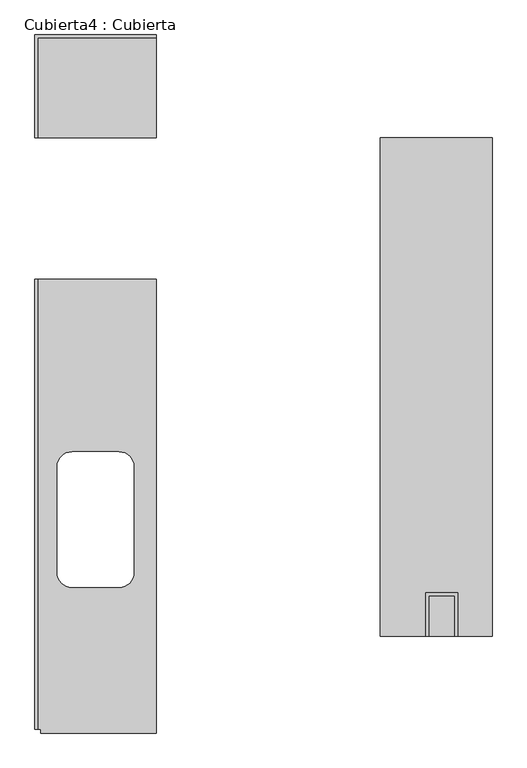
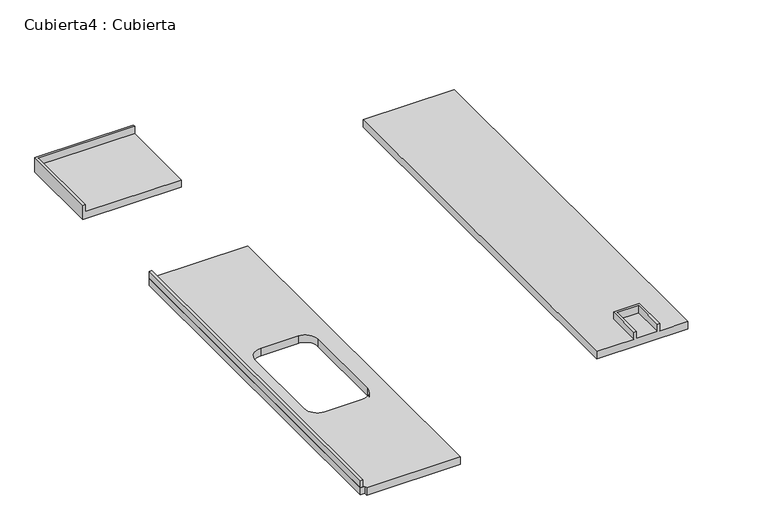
"""IFC4 building model written with IfcOpenShell, lengths in millimetres: furniture geometry, Cubierta4 : Cubierta."""

import ifcopenshell
import ifcopenshell.guid

model = None  # the IFC model being written
_history = None  # IfcOwnerHistory: only IFC2X3 demands one
_inside = {}  # id of a spatial element -> (the spatial element, [elements in it])
_under = {}  # id of a project, library or spatial element -> (it, [spatial elements below it])
_declared = {}  # id of a project -> (the project, [libraries it declares])
_typed = {}  # id of a type object -> (the type object, [elements of that type])
_made_of = {}  # id of a material, layer set ... -> (it, [elements and type objects made of it])


def new_model(schema):
    """Start an empty IFC model of exactly this schema.

    Asked for "IFC4X3", IfcOpenShell would pick the latest addendum, in which some entities
    have other attributes; the version numbers below select the first issue.
    IFC2X3 requires an IfcOwnerHistory on every rooted entity: one is made here for all.
    """
    global model, _history
    if schema == "IFC4X3":
        model = ifcopenshell.file(schema_version=(4, 3, 0, 0))
    else:
        model = ifcopenshell.file(schema=schema)
    _inside.clear()
    _under.clear()
    _declared.clear()
    _typed.clear()
    _made_of.clear()
    _history = None
    if model.schema == "IFC2X3":
        org = make("IfcOrganization", Name="unknown")
        user = make(
            "IfcPersonAndOrganization",
            ThePerson=make("IfcPerson", FamilyName="unknown"),
            TheOrganization=org,
        )
        app = make(
            "IfcApplication",
            ApplicationDeveloper=org,
            Version="unknown",
            ApplicationFullName="unknown",
            ApplicationIdentifier="unknown",
        )
        _history = make(
            "IfcOwnerHistory",
            OwningUser=user,
            OwningApplication=app,
            ChangeAction="ADDED",
            CreationDate=0,
        )
    return model


def make(cls, **values):
    """One entity of the class cls with the attributes given. An attribute that is None is left unset."""
    return model.create_entity(
        cls, **{name: value for name, value in values.items() if value is not None}
    )


def rooted(cls, **values):
    """An entity with a GlobalId (a new one), such as an element, a storey or a relation."""
    return make(cls, GlobalId=ifcopenshell.guid.new(), OwnerHistory=_history, **values)


def si_unit(unit_type, name, prefix=None):
    """IfcSIUnit, for example si_unit("LENGTHUNIT", "METRE", prefix="MILLI")."""
    return make("IfcSIUnit", UnitType=unit_type, Prefix=prefix, Name=name)


def assignment(units):
    """IfcUnitAssignment: the units of a project."""
    return None if units is None else make("IfcUnitAssignment", Units=units)


def point(xyz):
    """IfcCartesianPoint."""
    return None if xyz is None else make("IfcCartesianPoint", Coordinates=xyz)


def direction(xyz):
    """IfcDirection."""
    return None if xyz is None else make("IfcDirection", DirectionRatios=xyz)


def frame(location, z_axis=None, x_axis=None):
    """IfcAxis2Placement3D, a coordinate frame: its origin and axes. An axis left out is left unset."""
    return make(
        "IfcAxis2Placement3D",
        Location=point(location),
        Axis=direction(z_axis),
        RefDirection=direction(x_axis),
    )


def origin():
    """The frame at (0, 0, 0) with its axes left unset."""
    return frame((0.0, 0.0, 0.0))


def place(relative_to, where):
    """IfcLocalPlacement: puts the frame where relative to a parent placement (None: the world)."""
    return make(
        "IfcLocalPlacement", PlacementRelTo=relative_to, RelativePlacement=where
    )


def context(
    kind, dimensions, precision=None, world=None, true_north=None, identifier=None
):
    """IfcGeometricRepresentationContext, for example the 3D "Model" context."""
    return make(
        "IfcGeometricRepresentationContext",
        ContextIdentifier=identifier,
        ContextType=kind,
        CoordinateSpaceDimension=dimensions,
        Precision=precision,
        WorldCoordinateSystem=world,
        TrueNorth=true_north,
    )


def project(units=None, contexts=None):
    """IfcProject with its units and contexts."""
    return rooted(
        "IfcProject",
        Name="project",
        RepresentationContexts=contexts,
        UnitsInContext=assignment(units),
    )


def spatial(cls, under=None, at=None, **own):
    """A site, building, storey or space (cls), placed at a placement, below another one or the project."""
    s = rooted(cls, ObjectPlacement=at, **own)
    if under is not None:
        _under.setdefault(under.id(), (under, []))[1].append(s)
    return s


def polyline(points):
    """IfcPolyline through the points."""
    return make("IfcPolyline", Points=[point(p) for p in points])


def circle_curve(where, radius):
    """IfcCircle in the frame where."""
    return make("IfcCircle", Position=where, Radius=radius)


def outline(outer, holes=None, kind="AREA"):
    """IfcArbitraryClosedProfileDef: a profile drawn as a closed curve; with holes, ...WithVoids."""
    if holes is None:
        return make("IfcArbitraryClosedProfileDef", ProfileType=kind, OuterCurve=outer)
    return make(
        "IfcArbitraryProfileDefWithVoids",
        ProfileType=kind,
        OuterCurve=outer,
        InnerCurves=holes,
    )


def extrude(swept, where, along, depth):
    """IfcExtrudedAreaSolid: the profile swept, set in the frame where, extruded along a direction by depth."""
    return make(
        "IfcExtrudedAreaSolid",
        SweptArea=swept,
        Position=where,
        ExtrudedDirection=direction(along),
        Depth=depth,
    )


def faces_of(points, faces, orient=None, outer=None):
    """IfcFace entities. A face is a list of loops; a loop is a list of indices into points, from 0.

    orient and outer hold one flag for each loop. By default every Orientation is true, the
    first loop of a face is its IfcFaceOuterBound and the others are IfcFaceBound.
    """
    made = []
    for i, loops in enumerate(faces):
        bounds = []
        for j, loop in enumerate(loops):
            is_outer = j == 0 if outer is None else outer[i][j]
            bounds.append(
                make(
                    "IfcFaceOuterBound" if is_outer else "IfcFaceBound",
                    Bound=make("IfcPolyLoop", Polygon=[points[k] for k in loop]),
                    Orientation=True if orient is None else orient[i][j],
                )
            )
        made.append(make("IfcFace", Bounds=bounds))
    return made


def faceted_brep(points, faces, orient=None, outer=None, voids=None):
    """IfcFacetedBrep: a solid bounded by flat faces; with voids (closed shells), ...WithVoids."""
    shared = [point(p) for p in points]
    hull = make("IfcClosedShell", CfsFaces=faces_of(shared, faces, orient, outer))
    if voids is None:
        return make("IfcFacetedBrep", Outer=hull)
    return make(
        "IfcFacetedBrepWithVoids",
        Outer=hull,
        Voids=[
            make(cls, CfsFaces=faces_of(shared, fs, o, b)) for cls, fs, o, b in voids
        ],
    )


def shape(context_of_items, identifier, shape_type, items):
    """IfcShapeRepresentation: the items that make up one representation, for example the "Body"."""
    return make(
        "IfcShapeRepresentation",
        ContextOfItems=context_of_items,
        RepresentationIdentifier=identifier,
        RepresentationType=shape_type,
        Items=items,
    )


def source(mapping_origin, context_of_items, identifier, shape_type, items):
    """IfcRepresentationMap: a shape defined once, which mapped items show again and again."""
    return make(
        "IfcRepresentationMap",
        MappingOrigin=mapping_origin,
        MappedRepresentation=shape(context_of_items, identifier, shape_type, items),
    )


def transform(
    local_origin,
    x_axis=None,
    y_axis=None,
    z_axis=None,
    scale=None,
    scale2=None,
    scale3=None,
    uniform=True,
):
    """IfcCartesianTransformationOperator3D, or its non-uniform kind. x_axis, y_axis, z_axis: its Axis1, 2, 3."""
    if uniform:
        return make(
            "IfcCartesianTransformationOperator3D",
            Axis1=direction(x_axis),
            Axis2=direction(y_axis),
            LocalOrigin=point(local_origin),
            Scale=scale,
            Axis3=direction(z_axis),
        )
    return make(
        "IfcCartesianTransformationOperator3DnonUniform",
        Axis1=direction(x_axis),
        Axis2=direction(y_axis),
        LocalOrigin=point(local_origin),
        Scale=scale,
        Axis3=direction(z_axis),
        Scale2=scale2,
        Scale3=scale3,
    )


def mapped(mapping_source, mapping_target):
    """IfcMappedItem: shows the shape of a source again, moved by a transform."""
    return make(
        "IfcMappedItem", MappingSource=mapping_source, MappingTarget=mapping_target
    )


def made_of(thing, what):
    """Note that an element or type object is made of a material, layer set ...; save() writes the relation."""
    if what is not None:
        _made_of.setdefault(what.id(), (what, []))[1].append(thing)
    return thing


def element(
    cls,
    number,
    at=None,
    inside=None,
    cuts=None,
    type_object=None,
    material=None,
    context=None,
    identifier="Body",
    shape_type=None,
    held_by="IfcProductDefinitionShape",
    body=None,
    shapes=None,
    **own,
):
    """One element of the class cls, such as IfcWall. Its Tag is "e" and its number.

    at: its placement. inside: the storey or other place that contains it. cuts: it is an
    opening in that element (IfcRelVoidsElement). A single representation is given by context,
    identifier, shape_type and body (its items); several are given by shapes. held_by: the class
    of the entity that holds the representations. save() writes the other relations.
    """
    e = rooted(cls, Tag="e%d" % number, ObjectPlacement=at, **own)
    if body is not None:
        shapes = [shape(context, identifier, shape_type, body)]
    if shapes is not None:
        e.Representation = make(held_by, Representations=shapes)
    if inside is not None:
        _inside.setdefault(inside.id(), (inside, []))[1].append(e)
    if cuts is not None:
        rooted(
            "IfcRelVoidsElement", RelatingBuildingElement=cuts, RelatedOpeningElement=e
        )
    if type_object is not None:
        _typed.setdefault(type_object.id(), (type_object, []))[1].append(e)
    return made_of(e, material)


def aggregate(whole, parts):
    """IfcRelAggregates: a whole, such as a stair, and the parts it consists of."""
    return rooted("IfcRelAggregates", RelatingObject=whole, RelatedObjects=parts)


def save(model, path):
    """Write the relations noted so far, then the file.

    IfcRelAggregates (storeys below a building ...), IfcRelContainedInSpatialStructure (elements
    in a storey), IfcRelDefinesByType, IfcRelAssociatesMaterial and IfcRelDeclares: one each for
    every whole, place, type object, material and project.
    """
    for whole, parts in _under.values():
        aggregate(whole, parts)
    for where, things in _inside.values():
        rooted(
            "IfcRelContainedInSpatialStructure",
            RelatedElements=things,
            RelatingStructure=where,
        )
    for kind, things in _typed.values():
        rooted("IfcRelDefinesByType", RelatedObjects=things, RelatingType=kind)
    for what, things in _made_of.values():
        rooted("IfcRelAssociatesMaterial", RelatedObjects=things, RelatingMaterial=what)
    for by, libraries in _declared.values():
        rooted("IfcRelDeclares", RelatingContext=by, RelatedDefinitions=libraries)
    model.write(path)


def plane_surface(at):
    """IfcPlane: the flat surface through the origin of the frame at, square to its z axis."""
    return make("IfcPlane", Position=at)


def revolved_surface(curve, axis_point, axis_direction):
    """IfcSurfaceOfRevolution: the curve turned about the line through axis_point along axis_direction."""
    return make(
        "IfcSurfaceOfRevolution",
        SweptCurve=make("IfcArbitraryOpenProfileDef", ProfileType="CURVE", Curve=curve),
        AxisPosition=make("IfcAxis1Placement", Location=point(axis_point), Axis=direction(axis_direction)),
    )


def advanced_brep(points, edges, surfaces, faces):
    """IfcAdvancedBrep: a solid bounded by faces that lie on surfaces and meet in shared edges.

    An edge is (start, end): straight between two places in points (the first is 0);
    or (start, end, curve); or (start, end, curve, False) where it runs against its curve.
    A face is (place in surfaces, loops), or (place, loops, False) where it looks against
    its surface's normal. A loop lists edges by number (the first is 1), with a minus sign
    where the edge is run from its end to its start. The first loop is the outer one.
    """
    corners = [point(p) for p in points]
    vertices = [make("IfcVertexPoint", VertexGeometry=c) for c in corners]
    made = []
    for start, end, *more in edges:
        made.append(
            make(
                "IfcEdgeCurve",
                EdgeStart=vertices[start],
                EdgeEnd=vertices[end],
                EdgeGeometry=more[0] if more else make("IfcPolyline", Points=[corners[start], corners[end]]),
                SameSense=more[1] if len(more) > 1 else True,
            )
        )
    hull = []
    for where, loops, *sense in faces:
        bounds = []
        for j, loop in enumerate(loops):
            ring = [make("IfcOrientedEdge", EdgeElement=made[abs(k) - 1], Orientation=k > 0) for k in loop]
            bounds.append(
                make(
                    "IfcFaceOuterBound" if j == 0 else "IfcFaceBound",
                    Bound=make("IfcEdgeLoop", EdgeList=ring),
                    Orientation=True,
                )
            )
        hull.append(make("IfcAdvancedFace", Bounds=bounds, FaceSurface=surfaces[where], SameSense=sense[0] if sense else True))
    return make("IfcAdvancedBrep", Outer=make("IfcClosedShell", CfsFaces=hull))


def cubierta4_cubierta_1cff2780(model_context):
    return source(origin(), model_context, "Body", "SolidModel", [
        extrude(outline(polyline([(34143.8589874, 27964.010184), (34158.8589874, 27964.010184), (34158.8589874, 25552.4819737), (34143.8589874, 25552.4819737), (34143.8589874, 27964.010184)])), frame((0.0, 0.0, 3900.0), z_axis=(0.0, 0.0, 1.0), x_axis=(1.0, 0.0, 0.0)), (0.0, 0.0, 1.0), 50.0),
        faceted_brep([(35993.8589874, 28724.010184, 3900.0), (35993.8589874, 26052.4819336, 3900.0), (36239.5300226, 26052.4819336, 3900.0), (36239.5300226, 26284.0176189, 3900.0), (36409.5300226, 26284.0176189, 3900.0), (36409.5300226, 26052.4819336, 3900.0), (36593.8589508, 26052.4819336, 3900.0), (36593.8589508, 28724.010184, 3900.0), (36254.5300226, 26052.4819336, 3900.0), (36394.5300226, 26052.4819336, 3900.0), (36394.5300226, 26269.0176189, 3900.0), (36254.5300226, 26269.0176189, 3900.0), (35993.8589874, 28724.010184, 3850.0), (36593.8589508, 28724.010184, 3850.0), (36593.8589508, 26052.4819336, 3850.0), (35993.8589874, 26052.4819336, 3850.0), (36254.5300226, 26052.4819336, 3950.0), (36239.5300226, 26052.4819336, 3950.0), (36409.5300226, 26052.4819336, 3950.0), (36394.5300226, 26052.4819336, 3950.0), (36254.5300226, 26269.0176189, 3950.0), (36394.5300226, 26269.0176189, 3950.0), (36409.5300226, 26284.0176189, 3950.0), (36239.5300226, 26284.0176189, 3950.0)], [[[0, 1, 2, 3, 4, 5, 6, 7]], [[8, 9, 10, 11]], [[12, 13, 14, 15]], [[1, 0, 12, 15]], [[7, 6, 14, 13]], [[0, 7, 13, 12]], [[16, 17, 2, 1, 15, 14, 6, 5, 18, 19, 9, 8]], [[17, 16, 20, 21, 19, 18, 22, 23]], [[2, 17, 23, 3]], [[16, 8, 11, 20]], [[23, 22, 4, 3]], [[21, 20, 11, 10]], [[18, 5, 4, 22]], [[9, 19, 21, 10]]]),
        advanced_brep(
        [(34793.8589874, 25532.4819737, 3900.0), (34793.8589874, 27964.010184, 3900.0), (34143.8589874, 27964.010184, 3900.0), (34143.8589874, 25552.4819737, 3900.0), (34173.8589874, 25552.4819737, 3900.0), (34173.8589874, 25532.4819737, 3900.0), (34262.8589874, 26959.010184, 3900.0), (34343.8589874, 27040.010184, 3900.0), (34593.8589874, 27040.010184, 3900.0), (34674.8589874, 26959.010184, 3900.0), (34674.8589874, 26394.010184, 3900.0), (34593.8589874, 26313.010184, 3900.0), (34343.8589874, 26313.010184, 3900.0), (34262.8589874, 26394.010184, 3900.0), (34793.8589874, 25532.4819737, 3850.0), (34173.8589874, 25532.4819737, 3850.0), (34173.8589874, 25552.4819737, 3850.0), (34143.8589874, 25552.4819737, 3850.0), (34143.8589874, 27964.010184, 3850.0), (34793.8589874, 27964.010184, 3850.0), (34262.8589874, 26959.010184, 3850.0), (34262.8589874, 26394.010184, 3850.0), (34343.8589874, 26313.010184, 3850.0), (34593.8589874, 26313.010184, 3850.0), (34674.8589874, 26394.010184, 3850.0), (34674.8589874, 26959.010184, 3850.0), (34593.8589874, 27040.010184, 3850.0), (34343.8589874, 27040.010184, 3850.0)],
        [
            (0, 1),
            (1, 2),
            (2, 3),
            (3, 4),
            (4, 5),
            (5, 0),
            (6, 7, circle_curve(frame((34343.8589874, 26959.010184, 3900.0), z_axis=(0.0, 0.0, -1.0), x_axis=(0.0, 1.0, 0.0)), 81.0)),
            (7, 8),
            (8, 9, circle_curve(frame((34593.8589874, 26959.010184, 3900.0), z_axis=(0.0, 0.0, -1.0), x_axis=(0.0, 1.0, 0.0)), 81.0)),
            (9, 10),
            (10, 11, circle_curve(frame((34593.8589874, 26394.010184, 3900.0), z_axis=(0.0, 0.0, -1.0), x_axis=(0.0, 1.0, 0.0)), 81.0)),
            (11, 12),
            (12, 13, circle_curve(frame((34343.8589874, 26394.010184, 3900.0), z_axis=(0.0, 0.0, -1.0), x_axis=(0.0, 1.0, 0.0)), 81.0)),
            (13, 6),
            (14, 15),
            (15, 16),
            (16, 17),
            (17, 18),
            (18, 19),
            (19, 14),
            (20, 21),
            (21, 22, circle_curve(frame((34343.8589874, 26394.010184, 3850.0), z_axis=(0.0, 0.0, 1.0), x_axis=(0.0, 1.0, 0.0)), 81.0)),
            (22, 23),
            (23, 24, circle_curve(frame((34593.8589874, 26394.010184, 3850.0), z_axis=(0.0, 0.0, 1.0), x_axis=(0.0, 1.0, 0.0)), 81.0)),
            (24, 25),
            (25, 26, circle_curve(frame((34593.8589874, 26959.010184, 3850.0), z_axis=(0.0, 0.0, 1.0), x_axis=(0.0, 1.0, 0.0)), 81.0)),
            (26, 27),
            (27, 20, circle_curve(frame((34343.8589874, 26959.010184, 3850.0), z_axis=(0.0, 0.0, 1.0), x_axis=(0.0, 1.0, 0.0)), 81.0)),
            (2, 18),
            (17, 3),
            (16, 4),
            (15, 5),
            (14, 0),
            (19, 1),
            (6, 20),
            (27, 7),
            (26, 8),
            (25, 9),
            (24, 10),
            (23, 11),
            (22, 12),
            (21, 13),
        ],
        [
            plane_surface(frame((35993.8589874, 27819.7057874, 3900.0), z_axis=(0.0, 0.0, 1.0), x_axis=(0.0, -1.0, 0.0))),
            plane_surface(frame((35993.8589874, 27819.7057874, 3850.0), z_axis=(0.0, 0.0, -1.0), x_axis=(0.0, 1.0, 0.0))),
            plane_surface(frame((34143.8589874, 27964.010184, 3900.0), z_axis=(-1.0, 0.0, 0.0), x_axis=(0.0, 0.0, -1.0))),
            plane_surface(frame((34143.8589874, 25552.4819737, 3900.0), z_axis=(0.0, -1.0, 0.0), x_axis=(0.0, 0.0, -1.0))),
            plane_surface(frame((34173.8589874, 25552.4819737, 3900.0), z_axis=(-1.0, 0.0, 0.0), x_axis=(0.0, 0.0, -1.0))),
            plane_surface(frame((34173.8589874, 25532.4819737, 3900.0), z_axis=(0.0, -1.0, 0.0), x_axis=(0.0, 0.0, -1.0))),
            plane_surface(frame((34793.8589874, 25532.4819737, 3900.0), z_axis=(1.0, 0.0, 0.0), x_axis=(0.0, 0.0, -1.0))),
            plane_surface(frame((34793.8589874, 27964.010184, 3900.0), z_axis=(0.0, 1.0, 0.0), x_axis=(0.0, 0.0, -1.0))),
            revolved_surface(polyline([(34343.8589874, 27040.010184, 3850.0), (34343.8589874, 27040.010184, 3900.0)]), (34343.8589874, 26959.010184, 3000.0), (0.0, 0.0, -1.0)),
            plane_surface(frame((34343.8589874, 27040.010184, 3900.0), z_axis=(0.0, -1.0, 0.0), x_axis=(0.0, 0.0, -1.0))),
            revolved_surface(polyline([(34593.8589874, 27040.010184, 3850.0), (34593.8589874, 27040.010184, 3900.0)]), (34593.8589874, 26959.010184, 3000.0), (0.0, 0.0, -1.0)),
            plane_surface(frame((34674.8589874, 26959.010184, 3900.0), z_axis=(-1.0, 0.0, 0.0), x_axis=(0.0, 0.0, -1.0))),
            revolved_surface(polyline([(34593.8589874, 26475.010184, 3850.0), (34593.8589874, 26475.010184, 3900.0)]), (34593.8589874, 26394.010184, 3000.0), (0.0, 0.0, -1.0)),
            plane_surface(frame((34593.8589874, 26313.010184, 3900.0), z_axis=(0.0, 1.0, 0.0), x_axis=(0.0, 0.0, -1.0))),
            revolved_surface(polyline([(34343.8589874, 26475.010184, 3850.0), (34343.8589874, 26475.010184, 3900.0)]), (34343.8589874, 26394.010184, 3000.0), (0.0, 0.0, -1.0)),
            plane_surface(frame((34262.8589874, 26394.010184, 3900.0), z_axis=(1.0, 0.0, 0.0), x_axis=(0.0, 0.0, -1.0))),
        ],
        [
            (0, [[1, 2, 3, 4, 5, 6], [7, 8, 9, 10, 11, 12, 13, 14]]),
            (1, [[15, 16, 17, 18, 19, 20], [21, 22, 23, 24, 25, 26, 27, 28]]),
            (2, [[-3, 29, -18, 30]]),
            (3, [[-4, -30, -17, 31]]),
            (4, [[-5, -31, -16, 32]]),
            (5, [[-6, -32, -15, 33]]),
            (6, [[-1, -33, -20, 34]]),
            (7, [[-2, -34, -19, -29]]),
            (8, [[-7, 35, -28, 36]]),
            (9, [[-8, -36, -27, 37]]),
            (10, [[-9, -37, -26, 38]]),
            (11, [[-10, -38, -25, 39]]),
            (12, [[-11, -39, -24, 40]]),
            (13, [[-12, -40, -23, 41]]),
            (14, [[-13, -41, -22, 42]]),
            (15, [[-14, -42, -21, -35]]),
        ],
    ),
        faceted_brep([(34158.8589874, 28724.010184, 3900.0), (34793.8589874, 28724.010184, 3900.0), (34793.8589874, 29259.010184, 3900.0), (34158.8589874, 29259.010184, 3900.0), (34793.8589874, 29274.010184, 3850.0), (34793.8589874, 28724.010184, 3850.0), (34143.8589874, 28724.010184, 3850.0), (34143.8589874, 29274.010184, 3850.0), (34143.8589874, 29274.010184, 3950.0), (34793.8589874, 29274.010184, 3950.0), (34793.8589874, 29259.010184, 3950.0), (34143.8589874, 28724.010184, 3950.0), (34158.8589874, 28724.010184, 3950.0), (34158.8589874, 29259.010184, 3950.0)], [[[0, 1, 2, 3]], [[4, 5, 6, 7]], [[4, 7, 8, 9]], [[10, 9, 8, 11, 12, 13]], [[2, 10, 13, 3]], [[12, 0, 3, 13]], [[11, 6, 5, 1, 0, 12]], [[5, 4, 9, 10, 2, 1]], [[8, 7, 6, 11]]]),
    ])


if __name__ == "__main__":
    model = new_model("IFC4")
    model_context = context("Model", 3, world=origin())
    ifc_project = project(units=[si_unit("LENGTHUNIT", "METRE", prefix="MILLI")], contexts=[model_context])
    site = spatial("IfcSite", under=ifc_project)
    building = spatial("IfcBuilding", under=site)
    placement = place(None, origin())
    cubierta4_cubierta_shape = cubierta4_cubierta_1cff2780(model_context)
    element("IfcFurniture", 1, ObjectType="Cubierta4 : Cubierta", at=placement, inside=building, context=model_context, shape_type="MappedRepresentation", body=[
        mapped(cubierta4_cubierta_shape, transform((0.0, 0.0, 0.0), x_axis=(1.0, 0.0, 0.0), y_axis=(0.0, 1.0, 0.0), z_axis=(0.0, 0.0, 1.0))),
    ])
    save(model, "model.ifc")
